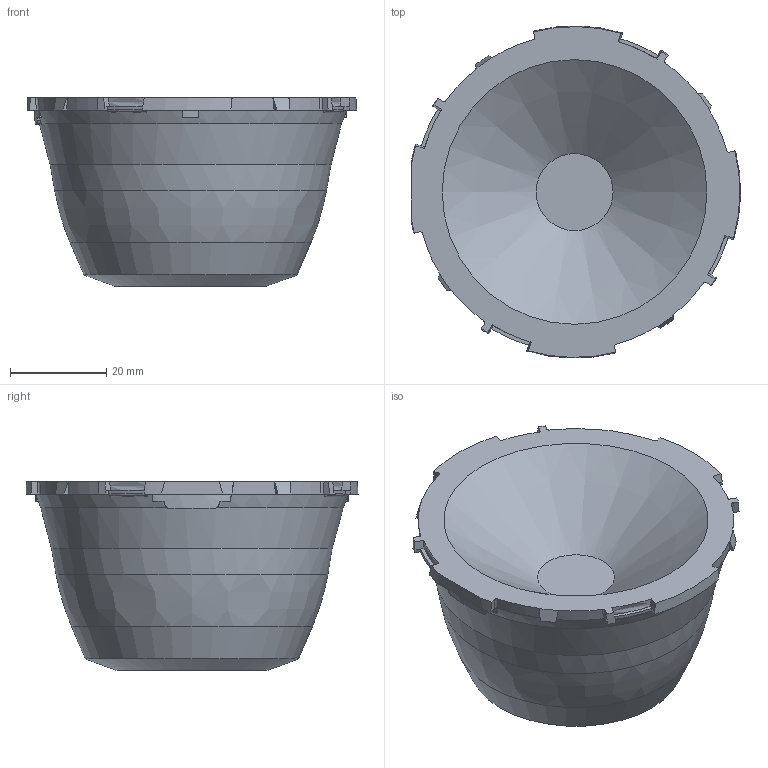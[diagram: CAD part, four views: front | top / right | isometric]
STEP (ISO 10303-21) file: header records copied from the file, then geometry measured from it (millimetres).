
FILE_DESCRIPTION(('STEP AP214'),'1');
FILE_NAME('240328_X75514_3D_HADAR70x_Mechanical_IndAB.stp','2024-03-29T12:42:17',(' '),(' '),'Spatial InterOp 3D',' ',' ');
FILE_SCHEMA(('AUTOMOTIVE_DESIGN { 1 0 10303 214 1 1 1 1 }'));
Length unit declared in the file: millimetre
Products named in the file (1): 240328_X75514_3D_HADAR70x_Mechanical_IndAB
Bounding box: 68.39 x 68.98 x 39.26 mm (x, y, z)
Volume: 75489.5 mm3; surface area: 13093.3 mm2
Topology: 1 solids, 1 shells, 158 faces, 441 edges, 290 vertices
Faces by surface type: plane 84, cone 36, extrusion 16, bspline 9, cylinder 8, torus 5
Full cylindrical faces by diameter (mm): 1.5 x2
Entity records: 6683 total; most frequent: CARTESIAN_POINT 1513, ORIENTED_EDGE 858, DIRECTION 738, EDGE_CURVE 429, AXIS2_PLACEMENT_3D 289, VERTEX_POINT 288, EDGE_LOOP 173, FACE_OUTER_BOUND 162
